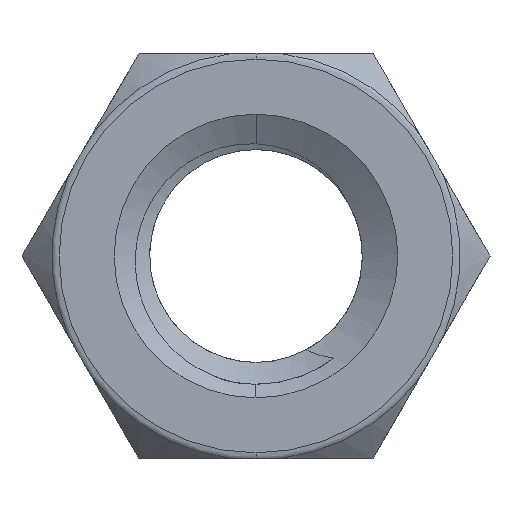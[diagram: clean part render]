
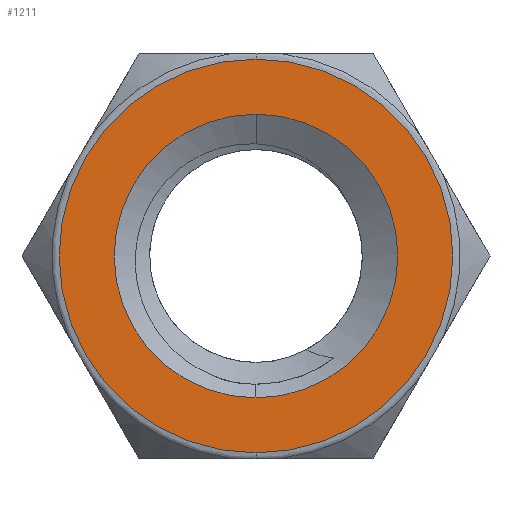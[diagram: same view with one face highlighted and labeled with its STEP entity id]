
A CAD part, front view. The second image highlights one B-rep face of the part: STEP entity #1211.
In plain terms, the highlighted planar face has unit normal (0, -1, 0).
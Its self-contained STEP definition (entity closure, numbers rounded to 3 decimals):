
#93 = DIRECTION ( 'NONE',  ( 0., 0., -1. ) ) ;
#192 = EDGE_CURVE ( 'NONE', #1053, #564, #762, .T. ) ;
#259 = EDGE_CURVE ( 'NONE', #564, #1053, #3001, .T. ) ;
#272 = DIRECTION ( 'NONE',  ( 0., 0., 1. ) ) ;
#301 = AXIS2_PLACEMENT_3D ( 'NONE', #2681, #610, #272 ) ;
#346 = DIRECTION ( 'NONE',  ( 0., -1., 0. ) ) ;
#564 = VERTEX_POINT ( 'NONE', #577 ) ;
#577 = CARTESIAN_POINT ( 'NONE',  ( 0., -1.75, 3.886 ) ) ;
#610 = DIRECTION ( 'NONE',  ( 0., 1., 0. ) ) ;
#653 = CIRCLE ( 'NONE', #2616, 2.8 ) ;
#679 = DIRECTION ( 'NONE',  ( 0., 0., 1. ) ) ;
#720 = EDGE_LOOP ( 'NONE', ( #2837, #2422 ) ) ;
#762 = CIRCLE ( 'NONE', #1606, 3.886 ) ;
#815 = EDGE_CURVE ( 'NONE', #3203, #1512, #1559, .T. ) ;
#876 = FACE_BOUND ( 'NONE', #1458, .T. ) ;
#1053 = VERTEX_POINT ( 'NONE', #1603 ) ;
#1131 = PLANE ( 'NONE',  #301 ) ;
#1193 = DIRECTION ( 'NONE',  ( 0., -1., 0. ) ) ;
#1207 = CARTESIAN_POINT ( 'NONE',  ( 0., -1.75, 0. ) ) ;
#1211 = ADVANCED_FACE ( 'NONE', ( #1621, #876 ), #1131, .F. ) ;
#1216 = AXIS2_PLACEMENT_3D ( 'NONE', #1207, #346, #679 ) ;
#1234 = CARTESIAN_POINT ( 'NONE',  ( 0., -1.75, 2.8 ) ) ;
#1262 = ORIENTED_EDGE ( 'NONE', *, *, #1938, .F. ) ;
#1458 = EDGE_LOOP ( 'NONE', ( #1262, #2301 ) ) ;
#1512 = VERTEX_POINT ( 'NONE', #1234 ) ;
#1559 = CIRCLE ( 'NONE', #2838, 2.8 ) ;
#1603 = CARTESIAN_POINT ( 'NONE',  ( 0., -1.75, -3.886 ) ) ;
#1606 = AXIS2_PLACEMENT_3D ( 'NONE', #2726, #3013, #2435 ) ;
#1621 = FACE_OUTER_BOUND ( 'NONE', #720, .T. ) ;
#1938 = EDGE_CURVE ( 'NONE', #1512, #3203, #653, .T. ) ;
#2301 = ORIENTED_EDGE ( 'NONE', *, *, #815, .F. ) ;
#2422 = ORIENTED_EDGE ( 'NONE', *, *, #192, .T. ) ;
#2435 = DIRECTION ( 'NONE',  ( 0., 0., 1. ) ) ;
#2616 = AXIS2_PLACEMENT_3D ( 'NONE', #2758, #1193, #93 ) ;
#2681 = CARTESIAN_POINT ( 'NONE',  ( 0., -1.75, 0. ) ) ;
#2726 = CARTESIAN_POINT ( 'NONE',  ( 0., -1.75, 0. ) ) ;
#2758 = CARTESIAN_POINT ( 'NONE',  ( 0., -1.75, 0. ) ) ;
#2837 = ORIENTED_EDGE ( 'NONE', *, *, #259, .T. ) ;
#2838 = AXIS2_PLACEMENT_3D ( 'NONE', #3465, #3307, #3447 ) ;
#3001 = CIRCLE ( 'NONE', #1216, 3.886 ) ;
#3013 = DIRECTION ( 'NONE',  ( 0., -1., 0. ) ) ;
#3044 = CARTESIAN_POINT ( 'NONE',  ( 0., -1.75, -2.8 ) ) ;
#3203 = VERTEX_POINT ( 'NONE', #3044 ) ;
#3307 = DIRECTION ( 'NONE',  ( 0., -1., 0. ) ) ;
#3447 = DIRECTION ( 'NONE',  ( 0., 0., -1. ) ) ;
#3465 = CARTESIAN_POINT ( 'NONE',  ( 0., -1.75, 0. ) ) ;
